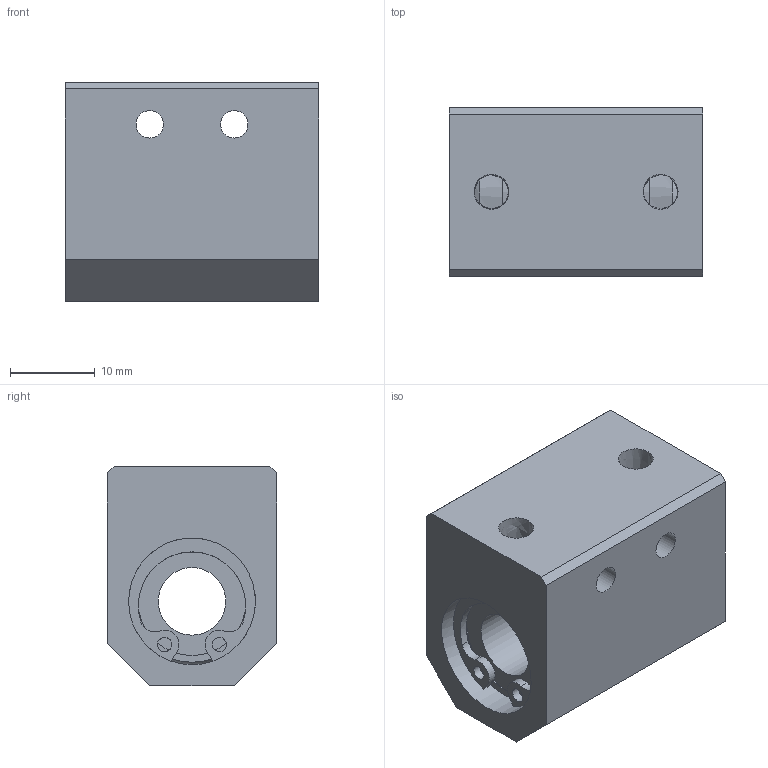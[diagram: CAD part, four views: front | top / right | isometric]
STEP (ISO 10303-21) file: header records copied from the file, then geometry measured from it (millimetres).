
FILE_DESCRIPTION((''),'2;1');
FILE_NAME('D:\製品 (図面)\カタログ用3D\リニアベアリング関連(改)\STEP形式\CH\CH8.stp','2010-01-25T09:32:29',('Tsuchiya'),(''),'Autodesk Inventor 10','Autodesk Inventor 10','');
FILE_SCHEMA(('AUTOMOTIVE_DESIGN { 1 0 10303 214 1 1 1 1 }'));
Length unit declared in the file: millimetre
Products named in the file (1): CH8
Bounding box: 30 x 20 x 26 mm (x, y, z)
Volume: 11860.4 mm3; surface area: 5495.2 mm2
Topology: 1 solids, 1 shells, 79 faces, 215 edges, 132 vertices
Faces by surface type: plane 33, bspline 23, cylinder 21, torus 2
Full cylindrical faces by diameter (mm): 1.7 x2, 8 x1, 12.8 x2, 14.3 x2, 15 x4
Entity records: 2584 total; most frequent: CARTESIAN_POINT 770, DIRECTION 374, ORIENTED_EDGE 352, EDGE_CURVE 176, AXIS2_PLACEMENT_3D 157, EDGE_LOOP 118, VERTEX_POINT 116, CIRCLE 102
